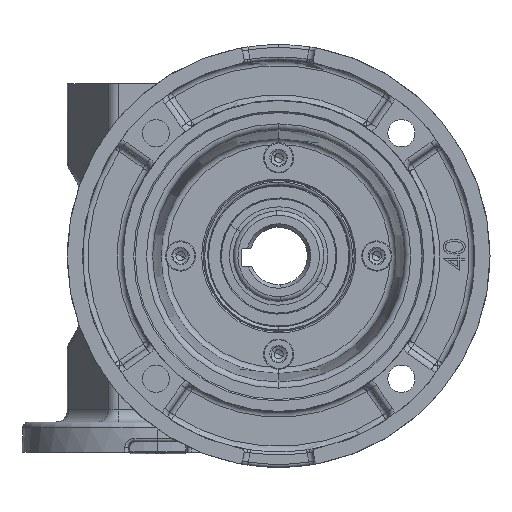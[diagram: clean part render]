
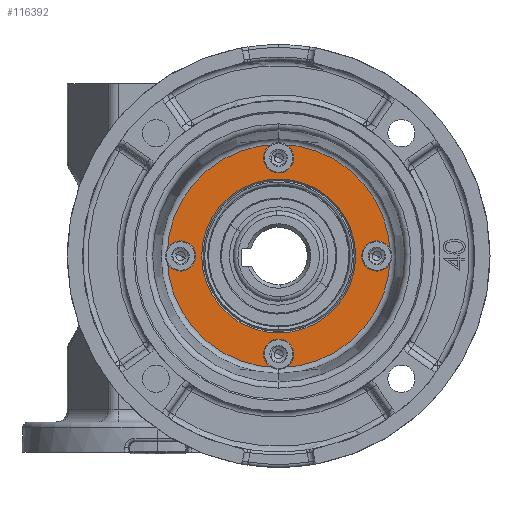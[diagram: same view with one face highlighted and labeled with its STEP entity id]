
A CAD part, left-side view. The second image highlights one B-rep face of the part: STEP entity #116392.
In plain terms, the highlighted planar face has unit normal (-1, 0, 0).
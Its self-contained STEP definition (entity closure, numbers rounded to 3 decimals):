
#109544 = CARTESIAN_POINT ( 'NONE',  ( -42., -40., 35.7 ) ) ;
#109546 = DIRECTION ( 'NONE',  ( 0., 0., 1. ) ) ;
#109549 = DIRECTION ( 'NONE',  ( -1., 0., 0. ) ) ;
#109551 = CARTESIAN_POINT ( 'NONE',  ( -42., -40., 32.5 ) ) ;
#109553 = AXIS2_PLACEMENT_3D ( 'NONE', #109551, #109549, #109546 ) ;
#109556 = CIRCLE ( 'NONE', #109553, 3.2 ) ;
#109567 = CARTESIAN_POINT ( 'NONE',  ( -42., -40., -29.3 ) ) ;
#109569 = DIRECTION ( 'NONE',  ( 0., 0., 1. ) ) ;
#109572 = DIRECTION ( 'NONE',  ( -1., 0., 0. ) ) ;
#109574 = CARTESIAN_POINT ( 'NONE',  ( -42., -40., -32.5 ) ) ;
#109575 = AXIS2_PLACEMENT_3D ( 'NONE', #109574, #109572, #109569 ) ;
#109577 = CIRCLE ( 'NONE', #109575, 3.2 ) ;
#109612 = CARTESIAN_POINT ( 'NONE',  ( -42., -7.5, 3.2 ) ) ;
#109616 = DIRECTION ( 'NONE',  ( 0., 0., 1. ) ) ;
#109619 = DIRECTION ( 'NONE',  ( -1., 0., 0. ) ) ;
#109621 = CARTESIAN_POINT ( 'NONE',  ( -42., -7.5, 0. ) ) ;
#109623 = AXIS2_PLACEMENT_3D ( 'NONE', #109621, #109619, #109616 ) ;
#109626 = CIRCLE ( 'NONE', #109623, 3.2 ) ;
#109635 = CARTESIAN_POINT ( 'NONE',  ( -42., -7.5, -3.2 ) ) ;
#109638 = CARTESIAN_POINT ( 'NONE',  ( -42., -72.5, 3.2 ) ) ;
#109657 = CARTESIAN_POINT ( 'NONE',  ( -42., -72.5, -3.2 ) ) ;
#109733 = CARTESIAN_POINT ( 'NONE',  ( -42., -40., 29.3 ) ) ;
#109921 = CARTESIAN_POINT ( 'NONE',  ( -42., -40., 25.5 ) ) ;
#109924 = DIRECTION ( 'NONE',  ( 0., 0., -1. ) ) ;
#109926 = DIRECTION ( 'NONE',  ( 1., 0., 0. ) ) ;
#109928 = CARTESIAN_POINT ( 'NONE',  ( -42., -40., 0. ) ) ;
#109931 = AXIS2_PLACEMENT_3D ( 'NONE', #109928, #109926, #109924 ) ;
#109933 = CIRCLE ( 'NONE', #109931, 25.5 ) ;
#109938 = EDGE_CURVE ( 'NONE', #110159, #109940, #109577, .T. ) ;
#109940 = VERTEX_POINT ( 'NONE', #109567 ) ;
#109944 = EDGE_CURVE ( 'NONE', #110035, #109945, #109556, .T. ) ;
#109945 = VERTEX_POINT ( 'NONE', #109544 ) ;
#109947 = CARTESIAN_POINT ( 'NONE',  ( -42., -40., -25.5 ) ) ;
#109986 = VERTEX_POINT ( 'NONE', #109657 ) ;
#109992 = VERTEX_POINT ( 'NONE', #109638 ) ;
#109994 = VERTEX_POINT ( 'NONE', #109635 ) ;
#109999 = EDGE_CURVE ( 'NONE', #109994, #110002, #109626, .T. ) ;
#110002 = VERTEX_POINT ( 'NONE', #109612 ) ;
#110035 = VERTEX_POINT ( 'NONE', #109733 ) ;
#110089 = DIRECTION ( 'NONE',  ( 0., 0., 1. ) ) ;
#110092 = DIRECTION ( 'NONE',  ( -1., 0., 0. ) ) ;
#110094 = CARTESIAN_POINT ( 'NONE',  ( -42., -72.5, 0. ) ) ;
#110096 = AXIS2_PLACEMENT_3D ( 'NONE', #110094, #110092, #110089 ) ;
#110099 = CIRCLE ( 'NONE', #110096, 3.2 ) ;
#110111 = VERTEX_POINT ( 'NONE', #109947 ) ;
#110116 = EDGE_CURVE ( 'NONE', #110118, #110111, #109933, .T. ) ;
#110118 = VERTEX_POINT ( 'NONE', #109921 ) ;
#110126 = EDGE_CURVE ( 'NONE', #109986, #109992, #110099, .T. ) ;
#110159 = VERTEX_POINT ( 'NONE', #110238 ) ;
#110238 = CARTESIAN_POINT ( 'NONE',  ( -42., -40., -35.7 ) ) ;
#112090 = EDGE_CURVE ( 'NONE', #112091, #112094, #119338, .T. ) ;
#112091 = VERTEX_POINT ( 'NONE', #119330 ) ;
#112094 = VERTEX_POINT ( 'NONE', #119326 ) ;
#116392 = ADVANCED_FACE ( 'NONE', ( #129785, #129782, #129781, #129780, #129779, #129778 ), #129777, .F. ) ;
#116398 = EDGE_LOOP ( 'NONE', ( #116400, #116561 ) ) ;
#116400 = ORIENTED_EDGE ( 'NONE', *, *, #116557, .F. ) ;
#116518 = EDGE_CURVE ( 'NONE', #110111, #110118, #129939, .T. ) ;
#116524 = EDGE_LOOP ( 'NONE', ( #116526, #116533 ) ) ;
#116526 = ORIENTED_EDGE ( 'NONE', *, *, #116528, .T. ) ;
#116528 = EDGE_CURVE ( 'NONE', #112094, #112091, #129928, .T. ) ;
#116533 = ORIENTED_EDGE ( 'NONE', *, *, #112090, .T. ) ;
#116557 = EDGE_CURVE ( 'NONE', #110002, #109994, #129973, .T. ) ;
#116561 = ORIENTED_EDGE ( 'NONE', *, *, #109999, .F. ) ;
#116567 = EDGE_LOOP ( 'NONE', ( #116571, #116575 ) ) ;
#116571 = ORIENTED_EDGE ( 'NONE', *, *, #116573, .F. ) ;
#116573 = EDGE_CURVE ( 'NONE', #109945, #110035, #129967, .T. ) ;
#116575 = ORIENTED_EDGE ( 'NONE', *, *, #109944, .F. ) ;
#116579 = EDGE_LOOP ( 'NONE', ( #116582, #116587 ) ) ;
#116582 = ORIENTED_EDGE ( 'NONE', *, *, #116585, .F. ) ;
#116585 = EDGE_CURVE ( 'NONE', #109992, #109986, #129950, .T. ) ;
#116587 = ORIENTED_EDGE ( 'NONE', *, *, #110126, .F. ) ;
#116590 = EDGE_LOOP ( 'NONE', ( #116593, #116741 ) ) ;
#116593 = ORIENTED_EDGE ( 'NONE', *, *, #116596, .F. ) ;
#116596 = EDGE_CURVE ( 'NONE', #109940, #110159, #129945, .T. ) ;
#116741 = ORIENTED_EDGE ( 'NONE', *, *, #109938, .F. ) ;
#116744 = EDGE_LOOP ( 'NONE', ( #116746, #116748 ) ) ;
#116746 = ORIENTED_EDGE ( 'NONE', *, *, #110116, .T. ) ;
#116748 = ORIENTED_EDGE ( 'NONE', *, *, #116518, .T. ) ;
#119326 = CARTESIAN_POINT ( 'NONE',  ( -42., -40., 36.939 ) ) ;
#119330 = CARTESIAN_POINT ( 'NONE',  ( -42., -40., -36.939 ) ) ;
#119332 = DIRECTION ( 'NONE',  ( 0., 0., 1. ) ) ;
#119334 = DIRECTION ( 'NONE',  ( -1., 0., 0. ) ) ;
#119335 = CARTESIAN_POINT ( 'NONE',  ( -42., -40., 0. ) ) ;
#119336 = AXIS2_PLACEMENT_3D ( 'NONE', #119335, #119334, #119332 ) ;
#119338 = CIRCLE ( 'NONE', #119336, 36.939 ) ;
#129777 = PLANE ( 'NONE',  #129832 ) ;
#129778 = FACE_OUTER_BOUND ( 'NONE', #116524, .T. ) ;
#129779 = FACE_BOUND ( 'NONE', #116744, .T. ) ;
#129780 = FACE_BOUND ( 'NONE', #116590, .T. ) ;
#129781 = FACE_BOUND ( 'NONE', #116579, .T. ) ;
#129782 = FACE_BOUND ( 'NONE', #116567, .T. ) ;
#129785 = FACE_BOUND ( 'NONE', #116398, .T. ) ;
#129829 = DIRECTION ( 'NONE',  ( 0., 0., -1. ) ) ;
#129830 = DIRECTION ( 'NONE',  ( 1., 0., 0. ) ) ;
#129831 = CARTESIAN_POINT ( 'NONE',  ( -42., -3.061, 0. ) ) ;
#129832 = AXIS2_PLACEMENT_3D ( 'NONE', #129831, #129830, #129829 ) ;
#129924 = DIRECTION ( 'NONE',  ( 0., 0., 1. ) ) ;
#129925 = DIRECTION ( 'NONE',  ( -1., 0., 0. ) ) ;
#129926 = CARTESIAN_POINT ( 'NONE',  ( -42., -40., 0. ) ) ;
#129927 = AXIS2_PLACEMENT_3D ( 'NONE', #129926, #129925, #129924 ) ;
#129928 = CIRCLE ( 'NONE', #129927, 36.939 ) ;
#129929 = DIRECTION ( 'NONE',  ( 0., 0., -1. ) ) ;
#129930 = DIRECTION ( 'NONE',  ( 1., 0., 0. ) ) ;
#129931 = CARTESIAN_POINT ( 'NONE',  ( -42., -40., 0. ) ) ;
#129932 = AXIS2_PLACEMENT_3D ( 'NONE', #129931, #129930, #129929 ) ;
#129939 = CIRCLE ( 'NONE', #129932, 25.5 ) ;
#129945 = CIRCLE ( 'NONE', #130005, 3.2 ) ;
#129946 = DIRECTION ( 'NONE',  ( 0., 0., 1. ) ) ;
#129947 = DIRECTION ( 'NONE',  ( -1., 0., 0. ) ) ;
#129948 = CARTESIAN_POINT ( 'NONE',  ( -42., -72.5, 0. ) ) ;
#129949 = AXIS2_PLACEMENT_3D ( 'NONE', #129948, #129947, #129946 ) ;
#129950 = CIRCLE ( 'NONE', #129949, 3.2 ) ;
#129951 = DIRECTION ( 'NONE',  ( 0., 0., 1. ) ) ;
#129952 = DIRECTION ( 'NONE',  ( -1., 0., 0. ) ) ;
#129965 = CARTESIAN_POINT ( 'NONE',  ( -42., -40., 32.5 ) ) ;
#129966 = AXIS2_PLACEMENT_3D ( 'NONE', #129965, #129952, #129951 ) ;
#129967 = CIRCLE ( 'NONE', #129966, 3.2 ) ;
#129969 = DIRECTION ( 'NONE',  ( 0., 0., 1. ) ) ;
#129970 = DIRECTION ( 'NONE',  ( -1., 0., 0. ) ) ;
#129971 = CARTESIAN_POINT ( 'NONE',  ( -42., -7.5, 0. ) ) ;
#129972 = AXIS2_PLACEMENT_3D ( 'NONE', #129971, #129970, #129969 ) ;
#129973 = CIRCLE ( 'NONE', #129972, 3.2 ) ;
#130002 = DIRECTION ( 'NONE',  ( 0., 0., 1. ) ) ;
#130003 = DIRECTION ( 'NONE',  ( -1., 0., 0. ) ) ;
#130004 = CARTESIAN_POINT ( 'NONE',  ( -42., -40., -32.5 ) ) ;
#130005 = AXIS2_PLACEMENT_3D ( 'NONE', #130004, #130003, #130002 ) ;
